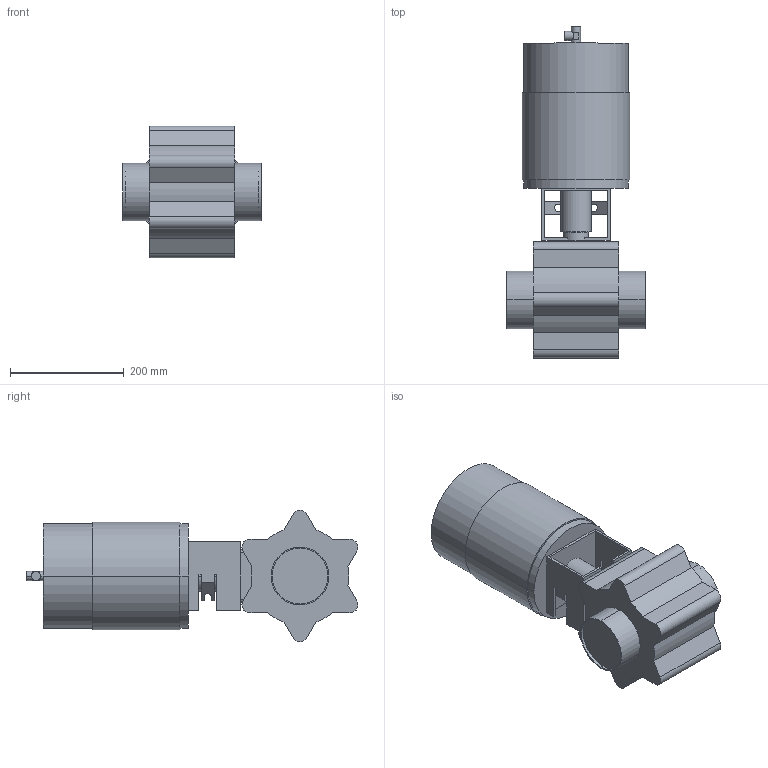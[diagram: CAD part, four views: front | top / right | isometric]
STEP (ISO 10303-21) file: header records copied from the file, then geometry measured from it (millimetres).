
FILE_DESCRIPTION(('Creo Elements/Direct Modeling STEP Export'),'2;1');
FILE_NAME('BLV1-4T-NC-12S.stp','2019-05-10T 8:32:09',(''),(''),'Creo Elements/Direct Modeling STEP processor for AP214 (Solid Model)','Creo Elements/Direct Modeling 19.0F 14-Feb-2017 (C) Parametric Technology GmbH','');
FILE_SCHEMA(('AUTOMOTIVE_DESIGN { 1 0 10303 214 1 1 1 1 }'));
Length unit declared in the file: millimetre
Products named in the file (2): BLV1-4T-NC-12S
Assembly tree (1 placements, depth 2):
  BLV1-4T-NC-12S
    BLV1-4T-NC-12S
Bounding box: 243 x 583.2 x 231 mm (x, y, z)
Volume: 12581243.2 mm3; surface area: 479891.1 mm2
Topology: 1 solids, 1 shells, 135 faces, 363 edges, 238 vertices
Faces by surface type: plane 90, cylinder 45
Entity records: 3992 total; most frequent: ORIENTED_EDGE 726, CARTESIAN_POINT 717, DIRECTION 618, EDGE_CURVE 363, VERTEX_POINT 238, VECTOR 236, LINE 236, AXIS2_PLACEMENT_3D 191
